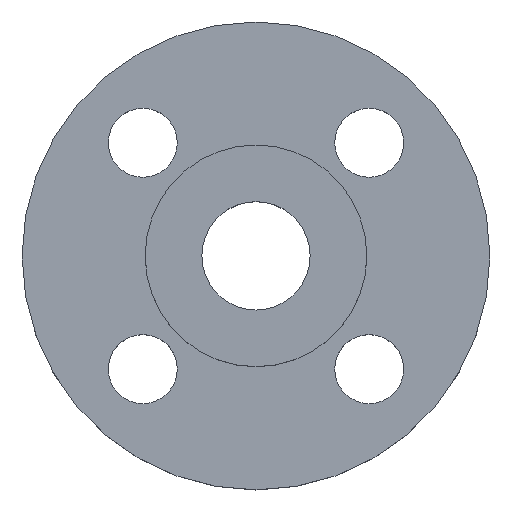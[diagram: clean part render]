
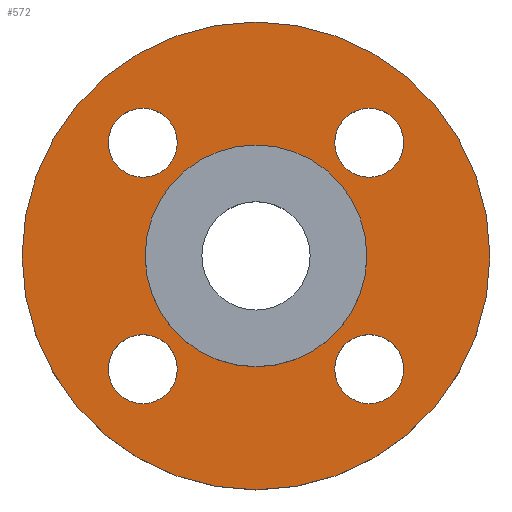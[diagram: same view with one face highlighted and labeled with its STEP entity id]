
A CAD part, top view. The second image highlights one B-rep face of the part: STEP entity #572.
In plain terms, the highlighted planar face has unit normal (0, 0, 1).
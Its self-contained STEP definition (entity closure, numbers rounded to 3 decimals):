
#6 = CIRCLE ( 'NONE', #603, 47.5 ) ;
#8 = AXIS2_PLACEMENT_3D ( 'NONE', #169, #168, #173 ) ;
#20 = CIRCLE ( 'NONE', #8, 7. ) ;
#40 = AXIS2_PLACEMENT_3D ( 'NONE', #353, #356, #361 ) ;
#41 = EDGE_CURVE ( 'NONE', #375, #463, #302, .T. ) ;
#43 = CIRCLE ( 'NONE', #52, 15.5 ) ;
#52 = AXIS2_PLACEMENT_3D ( 'NONE', #362, #396, #408 ) ;
#56 = CIRCLE ( 'NONE', #155, 7. ) ;
#97 = EDGE_CURVE ( 'NONE', #458, #470, #357, .T. ) ;
#108 = CIRCLE ( 'NONE', #118, 7. ) ;
#115 = CARTESIAN_POINT ( 'NONE',  ( -22.981, 22.981, 0. ) ) ;
#118 = AXIS2_PLACEMENT_3D ( 'NONE', #115, #248, #249 ) ;
#120 = EDGE_CURVE ( 'NONE', #485, #386, #371, .T. ) ;
#122 = CARTESIAN_POINT ( 'NONE',  ( 15.5, 0., 0. ) ) ;
#125 = CARTESIAN_POINT ( 'NONE',  ( 15.981, 22.981, 0. ) ) ;
#135 = EDGE_CURVE ( 'NONE', #385, #541, #273, .T. ) ;
#141 = DIRECTION ( 'NONE',  ( 1., 0., 0. ) ) ;
#144 = DIRECTION ( 'NONE',  ( 0., 0., 1. ) ) ;
#145 = CARTESIAN_POINT ( 'NONE',  ( 0., 0., 0. ) ) ;
#146 = PLANE ( 'NONE',  #206 ) ;
#147 = FACE_OUTER_BOUND ( 'NONE', #378, .T. ) ;
#148 = FACE_BOUND ( 'NONE', #499, .T. ) ;
#149 = FACE_BOUND ( 'NONE', #388, .T. ) ;
#151 = FACE_BOUND ( 'NONE', #596, .T. ) ;
#154 = FACE_BOUND ( 'NONE', #403, .T. ) ;
#155 = AXIS2_PLACEMENT_3D ( 'NONE', #340, #341, #342 ) ;
#156 = FACE_BOUND ( 'NONE', #377, .T. ) ;
#157 = DIRECTION ( 'NONE',  ( 1., 0., 0. ) ) ;
#159 = DIRECTION ( 'NONE',  ( 0., 0., 1. ) ) ;
#166 = CARTESIAN_POINT ( 'NONE',  ( -15.5, 0., 0. ) ) ;
#167 = CARTESIAN_POINT ( 'NONE',  ( 29.981, 22.981, 0. ) ) ;
#168 = DIRECTION ( 'NONE',  ( 0., 0., -1. ) ) ;
#169 = CARTESIAN_POINT ( 'NONE',  ( -22.981, -22.981, 0. ) ) ;
#171 = CARTESIAN_POINT ( 'NONE',  ( 0., 0., 0. ) ) ;
#173 = DIRECTION ( 'NONE',  ( -1., 0., 0. ) ) ;
#174 = DIRECTION ( 'NONE',  ( 1., 0., 0. ) ) ;
#177 = DIRECTION ( 'NONE',  ( 0., 0., 1. ) ) ;
#180 = EDGE_CURVE ( 'NONE', #541, #385, #108, .T. ) ;
#182 = CARTESIAN_POINT ( 'NONE',  ( -15.981, -22.981, 0. ) ) ;
#192 = AXIS2_PLACEMENT_3D ( 'NONE', #241, #159, #157 ) ;
#206 = AXIS2_PLACEMENT_3D ( 'NONE', #145, #144, #141 ) ;
#209 = CIRCLE ( 'NONE', #192, 15.5 ) ;
#212 = CARTESIAN_POINT ( 'NONE',  ( -47.5, 0., 0. ) ) ;
#216 = CARTESIAN_POINT ( 'NONE',  ( -29.981, -22.981, 0. ) ) ;
#229 = AXIS2_PLACEMENT_3D ( 'NONE', #706, #707, #708 ) ;
#236 = CARTESIAN_POINT ( 'NONE',  ( 29.981, -22.981, 0. ) ) ;
#241 = CARTESIAN_POINT ( 'NONE',  ( 0., 0., 0. ) ) ;
#243 = CARTESIAN_POINT ( 'NONE',  ( -15.981, 22.981, 0. ) ) ;
#248 = DIRECTION ( 'NONE',  ( 0., 0., -1. ) ) ;
#249 = DIRECTION ( 'NONE',  ( -1., 0., 0. ) ) ;
#257 = EDGE_CURVE ( 'NONE', #405, #625, #389, .T. ) ;
#273 = CIRCLE ( 'NONE', #315, 7. ) ;
#275 = AXIS2_PLACEMENT_3D ( 'NONE', #665, #666, #667 ) ;
#280 = CARTESIAN_POINT ( 'NONE',  ( 22.981, 22.981, 0. ) ) ;
#282 = DIRECTION ( 'NONE',  ( 0., 0., -1. ) ) ;
#287 = DIRECTION ( 'NONE',  ( -1., 0., 0. ) ) ;
#302 = CIRCLE ( 'NONE', #275, 7. ) ;
#308 = EDGE_CURVE ( 'NONE', #625, #405, #56, .T. ) ;
#315 = AXIS2_PLACEMENT_3D ( 'NONE', #709, #710, #711 ) ;
#324 = EDGE_CURVE ( 'NONE', #463, #375, #615, .T. ) ;
#334 = EDGE_CURVE ( 'NONE', #404, #628, #43, .T. ) ;
#340 = CARTESIAN_POINT ( 'NONE',  ( 22.981, 22.981, 0. ) ) ;
#341 = DIRECTION ( 'NONE',  ( 0., 0., -1. ) ) ;
#342 = DIRECTION ( 'NONE',  ( -1., 0., 0. ) ) ;
#353 = CARTESIAN_POINT ( 'NONE',  ( 22.981, -22.981, 0. ) ) ;
#356 = DIRECTION ( 'NONE',  ( 0., 0., -1. ) ) ;
#357 = CIRCLE ( 'NONE', #547, 7. ) ;
#361 = DIRECTION ( 'NONE',  ( -1., 0., 0. ) ) ;
#362 = CARTESIAN_POINT ( 'NONE',  ( 0., 0., 0. ) ) ;
#371 = CIRCLE ( 'NONE', #229, 47.5 ) ;
#375 = VERTEX_POINT ( 'NONE', #430 ) ;
#377 = EDGE_LOOP ( 'NONE', ( #515, #516 ) ) ;
#378 = EDGE_LOOP ( 'NONE', ( #527, #528 ) ) ;
#385 = VERTEX_POINT ( 'NONE', #443 ) ;
#386 = VERTEX_POINT ( 'NONE', #444 ) ;
#388 = EDGE_LOOP ( 'NONE', ( #522, #523 ) ) ;
#389 = CIRCLE ( 'NONE', #734, 7. ) ;
#396 = DIRECTION ( 'NONE',  ( 0., 0., 1. ) ) ;
#403 = EDGE_LOOP ( 'NONE', ( #517, #518 ) ) ;
#404 = VERTEX_POINT ( 'NONE', #166 ) ;
#405 = VERTEX_POINT ( 'NONE', #167 ) ;
#408 = DIRECTION ( 'NONE',  ( 1., 0., 0. ) ) ;
#430 = CARTESIAN_POINT ( 'NONE',  ( 15.981, -22.981, 0. ) ) ;
#438 = EDGE_CURVE ( 'NONE', #470, #458, #20, .T. ) ;
#443 = CARTESIAN_POINT ( 'NONE',  ( -29.981, 22.981, 0. ) ) ;
#444 = CARTESIAN_POINT ( 'NONE',  ( 47.5, 0., 0. ) ) ;
#455 = EDGE_CURVE ( 'NONE', #386, #485, #6, .T. ) ;
#458 = VERTEX_POINT ( 'NONE', #182 ) ;
#463 = VERTEX_POINT ( 'NONE', #236 ) ;
#470 = VERTEX_POINT ( 'NONE', #216 ) ;
#485 = VERTEX_POINT ( 'NONE', #212 ) ;
#499 = EDGE_LOOP ( 'NONE', ( #524, #526 ) ) ;
#515 = ORIENTED_EDGE ( 'NONE', *, *, #324, .T. ) ;
#516 = ORIENTED_EDGE ( 'NONE', *, *, #41, .T. ) ;
#517 = ORIENTED_EDGE ( 'NONE', *, *, #97, .T. ) ;
#518 = ORIENTED_EDGE ( 'NONE', *, *, #438, .T. ) ;
#519 = ORIENTED_EDGE ( 'NONE', *, *, #180, .T. ) ;
#520 = ORIENTED_EDGE ( 'NONE', *, *, #135, .T. ) ;
#522 = ORIENTED_EDGE ( 'NONE', *, *, #257, .T. ) ;
#523 = ORIENTED_EDGE ( 'NONE', *, *, #308, .T. ) ;
#524 = ORIENTED_EDGE ( 'NONE', *, *, #565, .F. ) ;
#526 = ORIENTED_EDGE ( 'NONE', *, *, #334, .F. ) ;
#527 = ORIENTED_EDGE ( 'NONE', *, *, #455, .T. ) ;
#528 = ORIENTED_EDGE ( 'NONE', *, *, #120, .T. ) ;
#541 = VERTEX_POINT ( 'NONE', #243 ) ;
#547 = AXIS2_PLACEMENT_3D ( 'NONE', #691, #692, #693 ) ;
#565 = EDGE_CURVE ( 'NONE', #628, #404, #209, .T. ) ;
#572 = ADVANCED_FACE ( 'NONE', ( #156, #154, #151, #149, #148, #147 ), #146, .T. ) ;
#596 = EDGE_LOOP ( 'NONE', ( #519, #520 ) ) ;
#603 = AXIS2_PLACEMENT_3D ( 'NONE', #171, #177, #174 ) ;
#615 = CIRCLE ( 'NONE', #40, 7. ) ;
#625 = VERTEX_POINT ( 'NONE', #125 ) ;
#628 = VERTEX_POINT ( 'NONE', #122 ) ;
#665 = CARTESIAN_POINT ( 'NONE',  ( 22.981, -22.981, 0. ) ) ;
#666 = DIRECTION ( 'NONE',  ( 0., 0., -1. ) ) ;
#667 = DIRECTION ( 'NONE',  ( -1., 0., 0. ) ) ;
#691 = CARTESIAN_POINT ( 'NONE',  ( -22.981, -22.981, 0. ) ) ;
#692 = DIRECTION ( 'NONE',  ( 0., 0., -1. ) ) ;
#693 = DIRECTION ( 'NONE',  ( -1., 0., 0. ) ) ;
#706 = CARTESIAN_POINT ( 'NONE',  ( 0., 0., 0. ) ) ;
#707 = DIRECTION ( 'NONE',  ( 0., 0., 1. ) ) ;
#708 = DIRECTION ( 'NONE',  ( 1., 0., 0. ) ) ;
#709 = CARTESIAN_POINT ( 'NONE',  ( -22.981, 22.981, 0. ) ) ;
#710 = DIRECTION ( 'NONE',  ( 0., 0., -1. ) ) ;
#711 = DIRECTION ( 'NONE',  ( -1., 0., 0. ) ) ;
#734 = AXIS2_PLACEMENT_3D ( 'NONE', #280, #282, #287 ) ;
